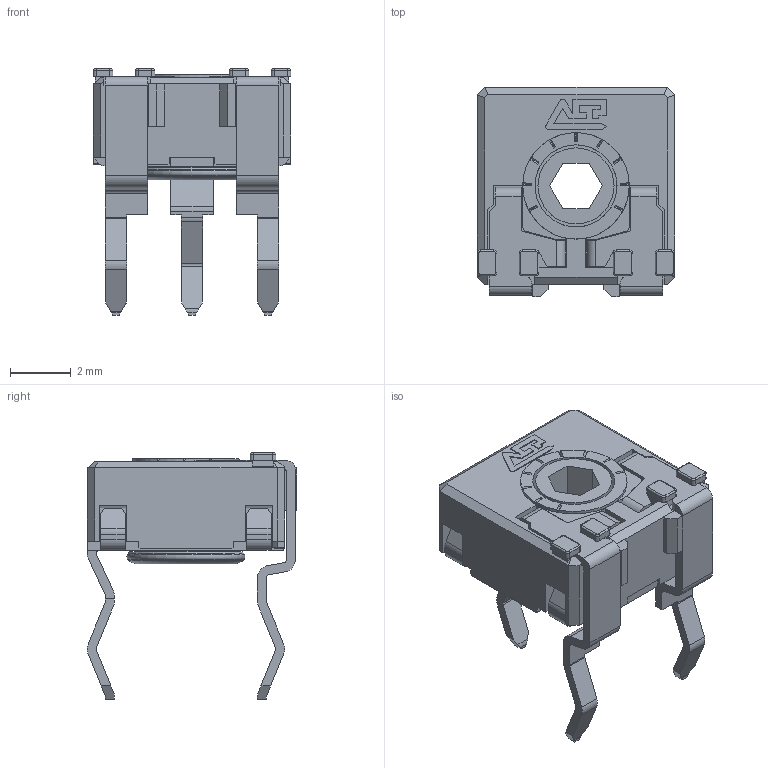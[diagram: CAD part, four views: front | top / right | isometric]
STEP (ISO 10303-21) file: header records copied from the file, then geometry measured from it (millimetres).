
FILE_DESCRIPTION(/* description */ (''),/* implementation_level */ '2;1');
FILE_NAME(/* name */ 'C:\Users\CEM\Desktop\ENVIAR\TRANSICION 3D CATALOGOS\COMCA6MV5 SNP.stp',/* time_stamp */ '2026-03-20T08:29:57+01:00',/* author */ ('CEM'),/* organization */ (''),/* preprocessor_version */ 'ST-DEVELOPER v16.13',/* originating_system */ 'Autodesk Inventor 2018',/* authorisation */ '');
FILE_SCHEMA (('AUTOMOTIVE_DESIGN { 1 0 10303 214 3 1 1 }'));
Length unit declared in the file: millimetre
Products named in the file (1): CARCASA CA6
Bounding box: 6.5 x 6.9 x 8.1 mm (x, y, z)
Volume: 92.8 mm3; surface area: 404.2 mm2
Topology: 1 solids, 1 shells, 572 faces, 1601 edges, 1028 vertices
Faces by surface type: plane 425, cylinder 108, cone 17, bspline 16, torus 6
Full cylindrical faces by diameter (mm): 2.5 x1, 2.7 x1, 2.9 x1, 3.1 x1, 3.5 x1
Entity records: 18405 total; most frequent: CARTESIAN_POINT 3361, ORIENTED_EDGE 3172, DIRECTION 2972, EDGE_CURVE 1583, LINE 1256, VECTOR 1256, VERTEX_POINT 1025, AXIS2_PLACEMENT_3D 858
